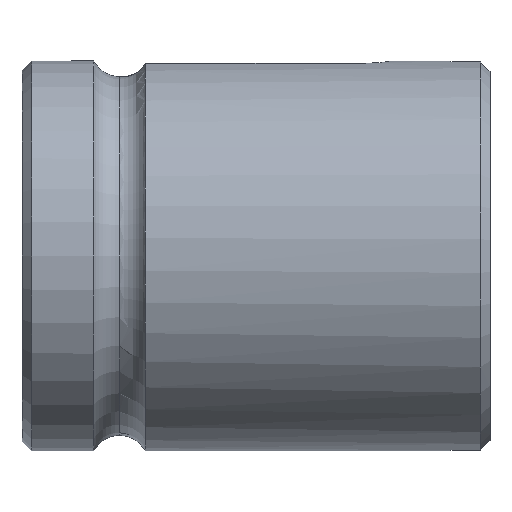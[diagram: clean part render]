
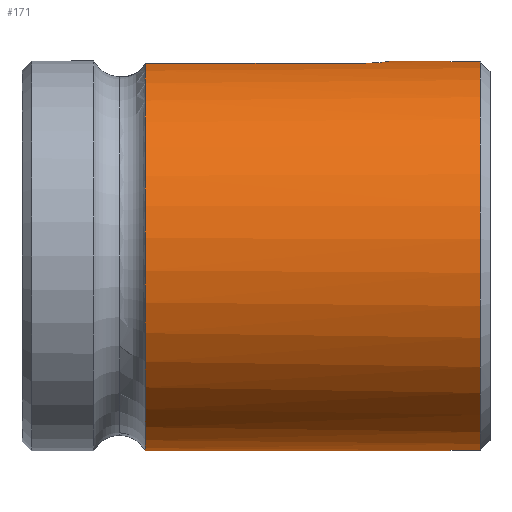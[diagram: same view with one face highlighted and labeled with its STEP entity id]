
A CAD part, front view. The second image highlights one B-rep face of the part: STEP entity #171.
In plain terms, the highlighted cylindrical face has radius 10 mm (diameter 20 mm), a partial arc.
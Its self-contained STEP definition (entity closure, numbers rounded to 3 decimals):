
#25 = DIRECTION ( 'NONE',  ( -1., 0., 0. ) ) ;
#43 = CARTESIAN_POINT ( 'NONE',  ( -5.301, -0.922, 9.958 ) ) ;
#47 = CARTESIAN_POINT ( 'NONE',  ( -2., 0., -10. ) ) ;
#57 = CARTESIAN_POINT ( 'NONE',  ( -17.5, -1.5, 9.887 ) ) ;
#61 = EDGE_CURVE ( 'NONE', #735, #781, #705, .T. ) ;
#82 = VERTEX_POINT ( 'NONE', #353 ) ;
#88 = CARTESIAN_POINT ( 'NONE',  ( -17.673, -1.49, 9.888 ) ) ;
#104 = LINE ( 'NONE', #551, #757 ) ;
#112 = CIRCLE ( 'NONE', #784, 10. ) ;
#124 = CARTESIAN_POINT ( 'NONE',  ( -2., 0., 0. ) ) ;
#130 = CARTESIAN_POINT ( 'NONE',  ( -6.5, -1.5, 9.887 ) ) ;
#134 = CARTESIAN_POINT ( 'NONE',  ( -5.039, -0.394, 9.994 ) ) ;
#138 = EDGE_CURVE ( 'NONE', #829, #559, #847, .T. ) ;
#171 = ADVANCED_FACE ( 'NONE', ( #1025 ), #571, .T. ) ;
#173 = ORIENTED_EDGE ( 'NONE', *, *, #362, .T. ) ;
#202 = DIRECTION ( 'NONE',  ( 0., -1., 0. ) ) ;
#208 = VERTEX_POINT ( 'NONE', #88 ) ;
#213 = CARTESIAN_POINT ( 'NONE',  ( -5., 0., 10. ) ) ;
#222 = ORIENTED_EDGE ( 'NONE', *, *, #224, .F. ) ;
#224 = EDGE_CURVE ( 'NONE', #266, #579, #341, .T. ) ;
#259 = CARTESIAN_POINT ( 'NONE',  ( -17.673, -1.49, 9.888 ) ) ;
#266 = VERTEX_POINT ( 'NONE', #622 ) ;
#267 = ORIENTED_EDGE ( 'NONE', *, *, #593, .T. ) ;
#285 = EDGE_CURVE ( 'NONE', #388, #208, #112, .T. ) ;
#299 = DIRECTION ( 'NONE',  ( -1., 0., 0. ) ) ;
#300 = AXIS2_PLACEMENT_3D ( 'NONE', #814, #299, #891 ) ;
#302 = CARTESIAN_POINT ( 'NONE',  ( -6.303, -1.49, 9.888 ) ) ;
#312 = VERTEX_POINT ( 'NONE', #1051 ) ;
#341 = LINE ( 'NONE', #706, #1000 ) ;
#353 = CARTESIAN_POINT ( 'NONE',  ( -2., -1., 9.95 ) ) ;
#362 = EDGE_CURVE ( 'NONE', #559, #312, #911, .T. ) ;
#385 = CARTESIAN_POINT ( 'NONE',  ( -6.016, -1.423, 9.898 ) ) ;
#388 = VERTEX_POINT ( 'NONE', #636 ) ;
#395 = VECTOR ( 'NONE', #1023, 1000. ) ;
#445 = ORIENTED_EDGE ( 'NONE', *, *, #515, .F. ) ;
#446 = DIRECTION ( 'NONE',  ( 1., 0., 0. ) ) ;
#464 = ORIENTED_EDGE ( 'NONE', *, *, #285, .F. ) ;
#467 = CARTESIAN_POINT ( 'NONE',  ( -2., 0., 0. ) ) ;
#472 = CARTESIAN_POINT ( 'NONE',  ( -5.748, -1.302, 9.915 ) ) ;
#476 = VECTOR ( 'NONE', #945, 1000. ) ;
#488 = CARTESIAN_POINT ( 'NONE',  ( -0.5, -1., -9.95 ) ) ;
#512 = DIRECTION ( 'NONE',  ( -1., 0., 0. ) ) ;
#515 = EDGE_CURVE ( 'NONE', #208, #266, #830, .T. ) ;
#542 = CARTESIAN_POINT ( 'NONE',  ( -17.673, 0., 0. ) ) ;
#546 = ORIENTED_EDGE ( 'NONE', *, *, #688, .F. ) ;
#551 = CARTESIAN_POINT ( 'NONE',  ( -67.863, 0., -10. ) ) ;
#558 = DIRECTION ( 'NONE',  ( 0., -1., 0. ) ) ;
#559 = VERTEX_POINT ( 'NONE', #488 ) ;
#564 = CARTESIAN_POINT ( 'NONE',  ( -5.508, -1.129, 9.936 ) ) ;
#571 = CYLINDRICAL_SURFACE ( 'NONE', #610, 10. ) ;
#573 = CARTESIAN_POINT ( 'NONE',  ( -17.558, -1.5, 9.887 ) ) ;
#574 = ORIENTED_EDGE ( 'NONE', *, *, #61, .T. ) ;
#579 = VERTEX_POINT ( 'NONE', #657 ) ;
#593 = EDGE_CURVE ( 'NONE', #312, #82, #942, .T. ) ;
#595 = CARTESIAN_POINT ( 'NONE',  ( -67.863, 0., 0. ) ) ;
#610 = AXIS2_PLACEMENT_3D ( 'NONE', #595, #512, #1116 ) ;
#622 = CARTESIAN_POINT ( 'NONE',  ( -17.5, -1.5, 9.887 ) ) ;
#624 = DIRECTION ( 'NONE',  ( 0., 0., 1. ) ) ;
#635 = CARTESIAN_POINT ( 'NONE',  ( -2., -1., -9.95 ) ) ;
#636 = CARTESIAN_POINT ( 'NONE',  ( -17.673, 0., -10. ) ) ;
#638 = CARTESIAN_POINT ( 'NONE',  ( -6.401, -1.5, 9.887 ) ) ;
#644 = CARTESIAN_POINT ( 'NONE',  ( -5.189, -0.755, 9.973 ) ) ;
#656 = AXIS2_PLACEMENT_3D ( 'NONE', #124, #725, #202 ) ;
#657 = CARTESIAN_POINT ( 'NONE',  ( -6.5, -1.5, 9.887 ) ) ;
#662 = ORIENTED_EDGE ( 'NONE', *, *, #138, .T. ) ;
#667 = EDGE_LOOP ( 'NONE', ( #546, #703, #662, #173, #267, #1021, #574, #831, #222, #445, #464 ) ) ;
#683 = B_SPLINE_CURVE_WITH_KNOTS ( 'NONE', 3,
 ( #130, #638, #302, #893, #385, #988, #472, #1071, #564, #43, #644, #134, #734, #213 ),
 .UNSPECIFIED., .F., .F.,
 ( 4, 2, 2, 2, 2, 2, 4 ),
 ( 0., 0., 0.001, 0.001, 0.001, 0.002, 0.002 ),
 .UNSPECIFIED. ) ;
#688 = EDGE_CURVE ( 'NONE', #879, #388, #104, .T. ) ;
#703 = ORIENTED_EDGE ( 'NONE', *, *, #960, .T. ) ;
#705 = LINE ( 'NONE', #1038, #476 ) ;
#706 = CARTESIAN_POINT ( 'NONE',  ( -67.863, -1.5, 9.887 ) ) ;
#722 = CARTESIAN_POINT ( 'NONE',  ( -5., 0., 10. ) ) ;
#725 = DIRECTION ( 'NONE',  ( -1., 0., 0. ) ) ;
#735 = VERTEX_POINT ( 'NONE', #1067 ) ;
#734 = CARTESIAN_POINT ( 'NONE',  ( -5., -0.196, 10. ) ) ;
#757 = VECTOR ( 'NONE', #985, 1000. ) ;
#775 = CARTESIAN_POINT ( 'NONE',  ( -17.616, -1.497, 9.887 ) ) ;
#781 = VERTEX_POINT ( 'NONE', #722 ) ;
#784 = AXIS2_PLACEMENT_3D ( 'NONE', #542, #25, #624 ) ;
#814 = CARTESIAN_POINT ( 'NONE',  ( -0.5, 0., 0. ) ) ;
#824 = EDGE_CURVE ( 'NONE', #82, #735, #956, .T. ) ;
#829 = VERTEX_POINT ( 'NONE', #635 ) ;
#830 = B_SPLINE_CURVE_WITH_KNOTS ( 'NONE', 3,
 ( #259, #775, #573, #57 ),
 .UNSPECIFIED., .F., .F.,
 ( 4, 4 ),
 ( 0., 0. ),
 .UNSPECIFIED. ) ;
#831 = ORIENTED_EDGE ( 'NONE', *, *, #1114, .F. ) ;
#833 = DIRECTION ( 'NONE',  ( -1., 0., 0. ) ) ;
#847 = LINE ( 'NONE', #939, #395 ) ;
#879 = VERTEX_POINT ( 'NONE', #47 ) ;
#891 = DIRECTION ( 'NONE',  ( 0., 0., 1. ) ) ;
#893 = CARTESIAN_POINT ( 'NONE',  ( -6.111, -1.452, 9.894 ) ) ;
#911 = CIRCLE ( 'NONE', #300, 10. ) ;
#912 = VECTOR ( 'NONE', #833, 1000. ) ;
#939 = CARTESIAN_POINT ( 'NONE',  ( -67.863, -1., -9.95 ) ) ;
#942 = LINE ( 'NONE', #1009, #912 ) ;
#945 = DIRECTION ( 'NONE',  ( -1., 0., 0. ) ) ;
#956 = CIRCLE ( 'NONE', #1084, 10. ) ;
#960 = EDGE_CURVE ( 'NONE', #879, #829, #1046, .T. ) ;
#985 = DIRECTION ( 'NONE',  ( -1., 0., 0. ) ) ;
#988 = CARTESIAN_POINT ( 'NONE',  ( -5.834, -1.348, 9.909 ) ) ;
#1000 = VECTOR ( 'NONE', #446, 1000. ) ;
#1009 = CARTESIAN_POINT ( 'NONE',  ( -67.863, -1., 9.95 ) ) ;
#1021 = ORIENTED_EDGE ( 'NONE', *, *, #824, .T. ) ;
#1023 = DIRECTION ( 'NONE',  ( 1., 0., 0. ) ) ;
#1025 = FACE_OUTER_BOUND ( 'NONE', #667, .T. ) ;
#1038 = CARTESIAN_POINT ( 'NONE',  ( -67.863, 0., 10. ) ) ;
#1046 = CIRCLE ( 'NONE', #656, 10. ) ;
#1051 = CARTESIAN_POINT ( 'NONE',  ( -0.5, -1., 9.95 ) ) ;
#1065 = DIRECTION ( 'NONE',  ( -1., 0., 0. ) ) ;
#1067 = CARTESIAN_POINT ( 'NONE',  ( -2., 0., 10. ) ) ;
#1071 = CARTESIAN_POINT ( 'NONE',  ( -5.585, -1.193, 9.929 ) ) ;
#1084 = AXIS2_PLACEMENT_3D ( 'NONE', #467, #1065, #558 ) ;
#1114 = EDGE_CURVE ( 'NONE', #579, #781, #683, .T. ) ;
#1116 = DIRECTION ( 'NONE',  ( 0., 0., 1. ) ) ;
